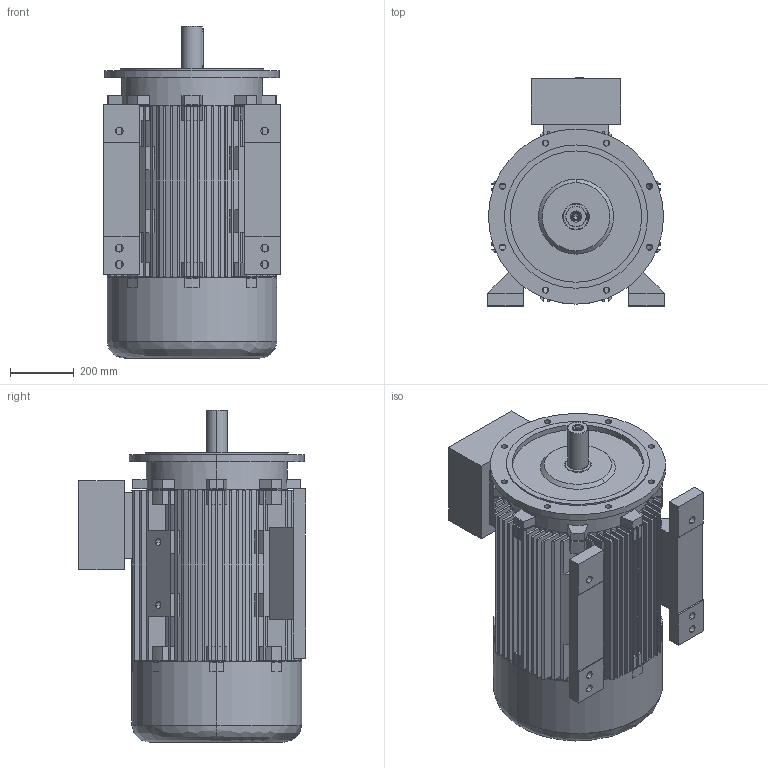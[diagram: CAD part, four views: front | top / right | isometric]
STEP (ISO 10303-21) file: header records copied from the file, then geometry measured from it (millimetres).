
FILE_DESCRIPTION (( 'STEP AP203' ), '1' );
FILE_NAME ('20.17511_C 7AT 280S&M -2 B35 Exde STANDK.STEP', '2018-05-21T07:31:39', ( '' ), ( '' ), 'SwSTEP 2.0', 'SolidWorks 2017', '' );
FILE_SCHEMA (( 'CONFIG_CONTROL_DESIGN' ));
Length unit declared in the file: millimetre
Products named in the file (1): 20.17511_C 7AT 280S&M -2 B35 Exde STANDK
Bounding box: 555 x 716 x 1043 mm (x, y, z)
Volume: 71128764 mm3; surface area: 8645283.8 mm2
Topology: 9 solids, 9 shells, 953 faces, 2591 edges, 1709 vertices
Faces by surface type: plane 736, cylinder 170, cone 34, bspline 13
Entity records: 30719 total; most frequent: CARTESIAN_POINT 6105, ORIENTED_EDGE 5146, DIRECTION 5055, EDGE_CURVE 2573, VECTOR 1889, LINE 1889, VERTEX_POINT 1709, AXIS2_PLACEMENT_3D 1583
